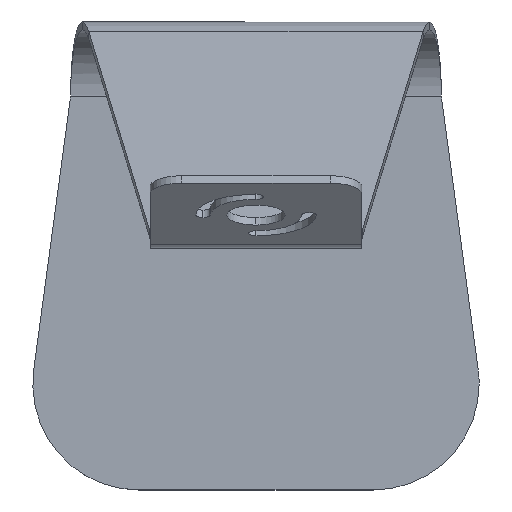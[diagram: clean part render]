
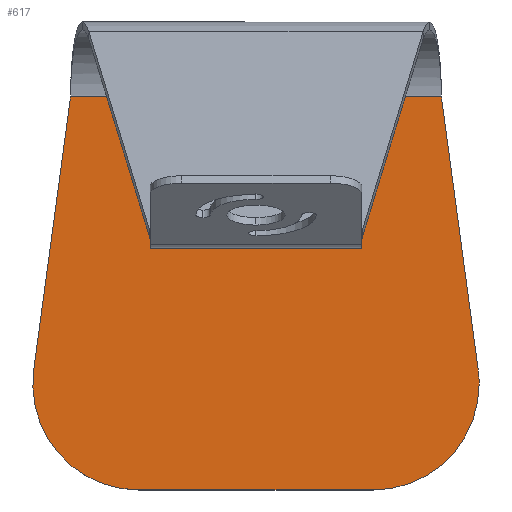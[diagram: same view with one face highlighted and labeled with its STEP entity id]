
A CAD part, top view. The second image highlights one B-rep face of the part: STEP entity #617.
In plain terms, the highlighted planar face has unit normal (0, 0, 1).
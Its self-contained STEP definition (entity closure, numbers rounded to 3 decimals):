
#1 = VERTEX_POINT ( 'NONE', #280 ) ;
#37 = ORIENTED_EDGE ( 'NONE', *, *, #472, .T. ) ;
#73 = CARTESIAN_POINT ( 'NONE',  ( -44.258, -108.661, 0. ) ) ;
#94 = CARTESIAN_POINT ( 'NONE',  ( 44.258, -148.661, 0. ) ) ;
#104 = VECTOR ( 'NONE', #2123, 1000. ) ;
#125 = LINE ( 'NONE', #612, #548 ) ;
#167 = ORIENTED_EDGE ( 'NONE', *, *, #1856, .T. ) ;
#196 = CARTESIAN_POINT ( 'NONE',  ( -70.022, 0., 0. ) ) ;
#215 = VERTEX_POINT ( 'NONE', #359 ) ;
#219 = CARTESIAN_POINT ( 'NONE',  ( -83.901, -103.327, 0. ) ) ;
#268 = CARTESIAN_POINT ( 'NONE',  ( 44.258, -108.661, 0. ) ) ;
#280 = CARTESIAN_POINT ( 'NONE',  ( 70.022, 0., 0. ) ) ;
#295 = DIRECTION ( 'NONE',  ( 0., 0., 1. ) ) ;
#297 = CARTESIAN_POINT ( 'NONE',  ( 70.037, -0.218, 0. ) ) ;
#324 = DIRECTION ( 'NONE',  ( -0.133, -0.991, 0. ) ) ;
#326 = EDGE_CURVE ( 'NONE', #1945, #1355, #1356, .T. ) ;
#334 = DIRECTION ( 'NONE',  ( 0., 0., 1. ) ) ;
#347 = LINE ( 'NONE', #1331, #104 ) ;
#354 = DIRECTION ( 'NONE',  ( 0., 0., 1. ) ) ;
#359 = CARTESIAN_POINT ( 'NONE',  ( -44.258, -148.661, 0. ) ) ;
#404 = DIRECTION ( 'NONE',  ( 1., 0., 0. ) ) ;
#415 = VERTEX_POINT ( 'NONE', #597 ) ;
#416 = DIRECTION ( 'NONE',  ( -0.133, 0.991, 0. ) ) ;
#472 = EDGE_CURVE ( 'NONE', #415, #1945, #1640, .T. ) ;
#539 = DIRECTION ( 'NONE',  ( 0., 0., 1. ) ) ;
#548 = VECTOR ( 'NONE', #1775, 1000. ) ;
#565 = CARTESIAN_POINT ( 'NONE',  ( -70.088, -0.652, 0. ) ) ;
#573 = EDGE_CURVE ( 'NONE', #215, #807, #347, .T. ) ;
#577 = B_SPLINE_CURVE_WITH_KNOTS ( 'NONE', 3,
 ( #1015, #1868, #297, #2090 ),
 .UNSPECIFIED., .F., .F.,
 ( 4, 4 ),
 ( 0., 0.001 ),
 .UNSPECIFIED. ) ;
#597 = CARTESIAN_POINT ( 'NONE',  ( 84.258, -108.661, 0. ) ) ;
#612 = CARTESIAN_POINT ( 'NONE',  ( -70., 0., 0. ) ) ;
#614 = AXIS2_PLACEMENT_3D ( 'NONE', #268, #354, #404 ) ;
#617 = ADVANCED_FACE ( 'NONE', ( #1522 ), #1558, .T. ) ;
#641 = ORIENTED_EDGE ( 'NONE', *, *, #1515, .T. ) ;
#655 = EDGE_CURVE ( 'NONE', #1502, #1466, #1641, .T. ) ;
#656 = DIRECTION ( 'NONE',  ( 1., 0., 0. ) ) ;
#679 = VERTEX_POINT ( 'NONE', #219 ) ;
#807 = VERTEX_POINT ( 'NONE', #94 ) ;
#852 = AXIS2_PLACEMENT_3D ( 'NONE', #1454, #334, #656 ) ;
#864 = DIRECTION ( 'NONE',  ( 1., 0., 0. ) ) ;
#866 = CARTESIAN_POINT ( 'NONE',  ( 70., 0., 0. ) ) ;
#872 = CARTESIAN_POINT ( 'NONE',  ( -70.088, -0.652, 0. ) ) ;
#891 = EDGE_CURVE ( 'NONE', #1466, #679, #2103, .T. ) ;
#913 = CARTESIAN_POINT ( 'NONE',  ( -44.258, -108.661, 0. ) ) ;
#922 = EDGE_LOOP ( 'NONE', ( #1185, #1106, #1248, #167, #2042, #1407, #37, #1624, #641 ) ) ;
#987 = CARTESIAN_POINT ( 'NONE',  ( 70.088, -0.652, 0. ) ) ;
#1015 = CARTESIAN_POINT ( 'NONE',  ( 70.088, -0.652, 0. ) ) ;
#1054 = CIRCLE ( 'NONE', #614, 40. ) ;
#1106 = ORIENTED_EDGE ( 'NONE', *, *, #655, .T. ) ;
#1153 = EDGE_CURVE ( 'NONE', #807, #415, #1054, .T. ) ;
#1158 = CARTESIAN_POINT ( 'NONE',  ( -70., 0., 0. ) ) ;
#1185 = ORIENTED_EDGE ( 'NONE', *, *, #1774, .T. ) ;
#1191 = CARTESIAN_POINT ( 'NONE',  ( -70.037, -0.218, 0. ) ) ;
#1248 = ORIENTED_EDGE ( 'NONE', *, *, #891, .T. ) ;
#1288 = VECTOR ( 'NONE', #416, 1000. ) ;
#1331 = CARTESIAN_POINT ( 'NONE',  ( -44.258, -148.661, 0. ) ) ;
#1355 = VERTEX_POINT ( 'NONE', #987 ) ;
#1356 = LINE ( 'NONE', #866, #1288 ) ;
#1373 = CIRCLE ( 'NONE', #1931, 40. ) ;
#1407 = ORIENTED_EDGE ( 'NONE', *, *, #1153, .T. ) ;
#1454 = CARTESIAN_POINT ( 'NONE',  ( 44.258, -108.661, 0. ) ) ;
#1466 = VERTEX_POINT ( 'NONE', #565 ) ;
#1502 = VERTEX_POINT ( 'NONE', #1523 ) ;
#1515 = EDGE_CURVE ( 'NONE', #1355, #1, #577, .T. ) ;
#1522 = FACE_OUTER_BOUND ( 'NONE', #922, .T. ) ;
#1523 = CARTESIAN_POINT ( 'NONE',  ( -70.022, 0., 0. ) ) ;
#1545 = CARTESIAN_POINT ( 'NONE',  ( -70.059, -0.436, 0. ) ) ;
#1546 = AXIS2_PLACEMENT_3D ( 'NONE', #73, #539, #864 ) ;
#1558 = PLANE ( 'NONE',  #1546 ) ;
#1575 = DIRECTION ( 'NONE',  ( 1., 0., 0. ) ) ;
#1623 = CARTESIAN_POINT ( 'NONE',  ( 83.901, -103.327, 0. ) ) ;
#1624 = ORIENTED_EDGE ( 'NONE', *, *, #326, .T. ) ;
#1640 = CIRCLE ( 'NONE', #852, 40. ) ;
#1641 = B_SPLINE_CURVE_WITH_KNOTS ( 'NONE', 3,
 ( #196, #1191, #1545, #872 ),
 .UNSPECIFIED., .F., .F.,
 ( 4, 4 ),
 ( 0., 0.001 ),
 .UNSPECIFIED. ) ;
#1774 = EDGE_CURVE ( 'NONE', #1, #1502, #125, .T. ) ;
#1775 = DIRECTION ( 'NONE',  ( -1., 0., 0. ) ) ;
#1856 = EDGE_CURVE ( 'NONE', #679, #215, #1373, .T. ) ;
#1868 = CARTESIAN_POINT ( 'NONE',  ( 70.059, -0.436, 0. ) ) ;
#1926 = VECTOR ( 'NONE', #324, 1000. ) ;
#1931 = AXIS2_PLACEMENT_3D ( 'NONE', #913, #295, #1575 ) ;
#1945 = VERTEX_POINT ( 'NONE', #1623 ) ;
#2042 = ORIENTED_EDGE ( 'NONE', *, *, #573, .T. ) ;
#2090 = CARTESIAN_POINT ( 'NONE',  ( 70.022, 0., 0. ) ) ;
#2103 = LINE ( 'NONE', #1158, #1926 ) ;
#2123 = DIRECTION ( 'NONE',  ( 1., 0., 0. ) ) ;
